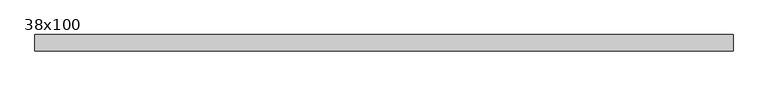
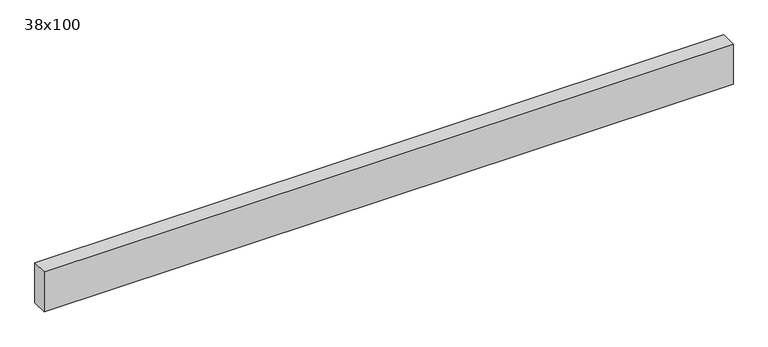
"""IFC4 building model written with IfcOpenShell, lengths in millimetres: beam geometry, Poutre - Bois de construction de dimensions courantes : 38x100."""

from ifc_helpers import new_model, si_unit, frame, origin, place, context, project, spatial, polyline, outline, extrude, source, transform, mapped, element, save


def beam_38x100_917d56e3(model_context):
    return source(origin(), model_context, "Body", "SweptSolid", [
        extrude(outline(polyline([(841.5, 19.05), (841.5, -19.05), (-780.5, -19.05), (-780.5, 19.05), (841.5, 19.05)])), frame((0.0, 0.0, -50.0), z_axis=(0.0, 0.0, 1.0), x_axis=(1.0, 0.0, 0.0)), (0.0, 0.0, 1.0), 100.0),
    ])


if __name__ == "__main__":
    model = new_model("IFC4")
    model_context = context("Model", 3, world=origin())
    ifc_project = project(units=[si_unit("LENGTHUNIT", "METRE", prefix="MILLI")], contexts=[model_context])
    site = spatial("IfcSite", under=ifc_project)
    building = spatial("IfcBuilding", under=site)
    placement = place(None, origin())
    beam_38x100_shape = beam_38x100_917d56e3(model_context)
    element("IfcBeam", 1, ObjectType="Poutre - Bois de construction de dimensions courantes : 38x100", at=placement, inside=building, context=model_context, shape_type="MappedRepresentation", body=[
        mapped(beam_38x100_shape, transform((0.0, 0.0, 0.0), x_axis=(1.0, 0.0, 0.0), y_axis=(0.0, 1.0, 0.0), z_axis=(0.0, 0.0, 1.0))),
    ])
    save(model, "model.ifc")
